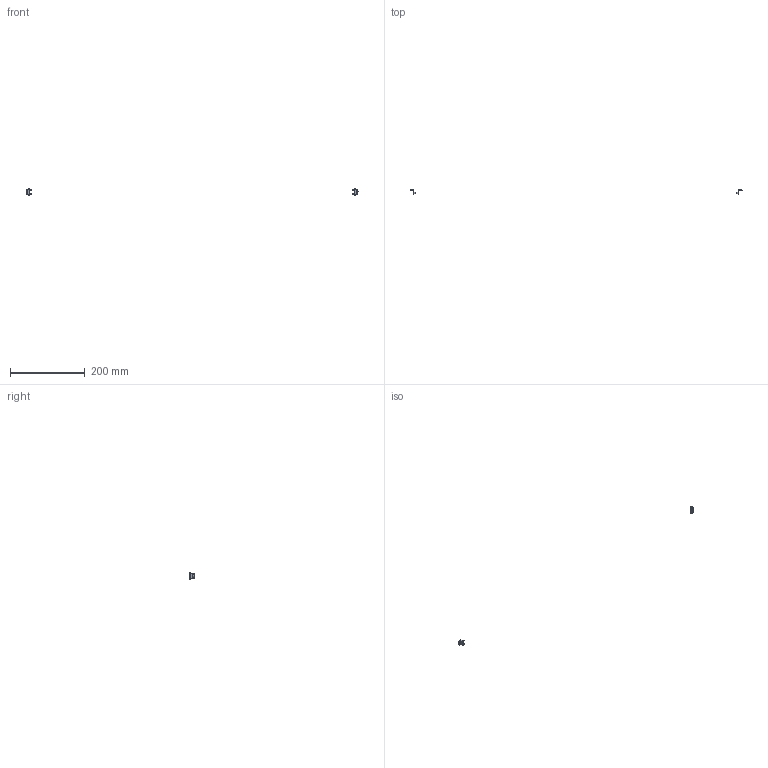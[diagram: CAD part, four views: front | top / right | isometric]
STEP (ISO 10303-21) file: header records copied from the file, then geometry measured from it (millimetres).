
FILE_DESCRIPTION (( 'STEP AP203' ), '1' );
FILE_NAME ('2000725 Endkappenset Malindi.STEP', '2021-01-27T06:44:01', ( '' ), ( '' ), 'SwSTEP 2.0', 'SolidWorks 2018', '' );
FILE_SCHEMA (( 'CONFIG_CONTROL_DESIGN' ));
Length unit declared in the file: millimetre
Products named in the file (2): 841118-Endkappe Malindi^Baugruppe_Malindi(2)_Baugruppe_Malindi; 2000725 Endkappenset Malindi
Assembly tree (2 placements, depth 2):
  2000725 Endkappenset Malindi
    841118-Endkappe Malindi^Baugruppe_Malindi(2)_Baugruppe_Malindi  x2
Bounding box: 889.4 x 11.29 x 17 mm (x, y, z)
Volume: 589.1 mm3; surface area: 1491.9 mm2
Topology: 2 solids, 2 shells, 146 faces, 406 edges, 268 vertices
Faces by surface type: plane 66, cylinder 44, torus 12, bspline 12, cone 8, sphere 4
Entity records: 3164 total; most frequent: CARTESIAN_POINT 1075, ORIENTED_EDGE 406, DIRECTION 388, EDGE_CURVE 203, AXIS2_PLACEMENT_3D 136, VERTEX_POINT 134, VECTOR 116, LINE 116
